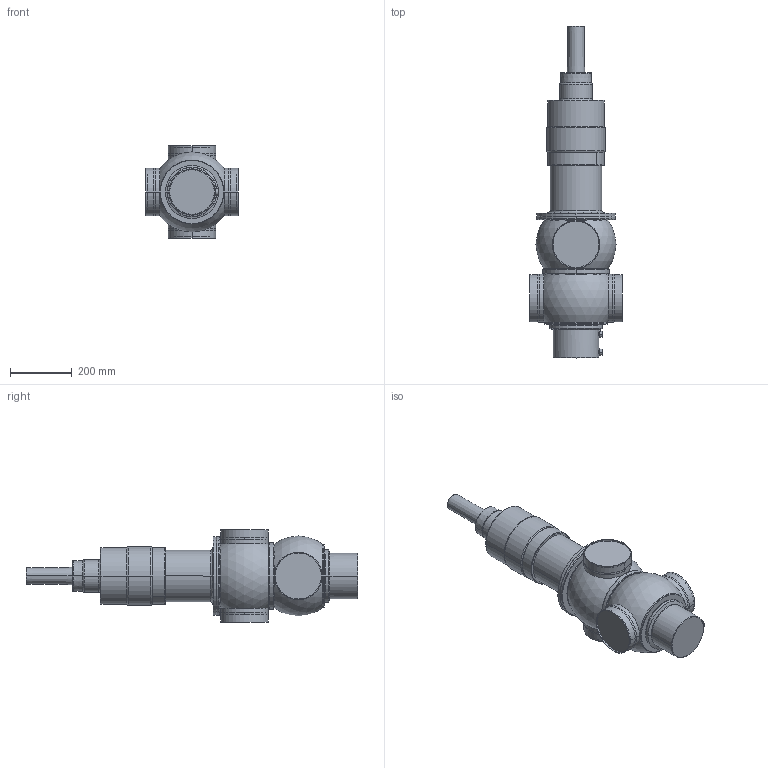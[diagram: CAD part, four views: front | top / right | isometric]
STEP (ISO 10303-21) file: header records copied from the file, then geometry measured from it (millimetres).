
FILE_DESCRIPTION(('Creo Elements/Direct Modeling STEP Export'),'2;1');
FILE_NAME('D44-150_prox.stp','2019-09-03T15:58:17',(''),(''),'PTC Creo Elements/Direct Modeling STEP processor for AP214 (Solid Model)','PTC Creo Elements/Direct Modeling 19.0B 21-Mar-2015 (C) Parametric Technology GmbH','');
FILE_SCHEMA(('AUTOMOTIVE_DESIGN { 1 0 10303 214 1 1 1 1 }'));
Length unit declared in the file: millimetre
Products named in the file (5): housing_D44-150; D4_Prox._holder.; Actuator_D4-D4SL-180_Yoke; drain_pipe_138; D44-150_prox
Assembly tree (4 placements, depth 2):
  D44-150_prox
    drain_pipe_138
    Actuator_D4-D4SL-180_Yoke
    D4_Prox._holder.
    housing_D44-150
Bounding box: 300 x 1078.5 x 300 mm (x, y, z)
Volume: 30973411.8 mm3; surface area: 974666.4 mm2
Topology: 4 solids, 4 shells, 172 faces, 396 edges, 247 vertices
Faces by surface type: cylinder 63, torus 57, plane 29, cone 16, sphere 4, bspline 3
Entity records: 7444 total; most frequent: CARTESIAN_POINT 3788, ORIENTED_EDGE 792, DIRECTION 728, EDGE_CURVE 396, AXIS2_PLACEMENT_3D 324, VERTEX_POINT 247, EDGE_LOOP 187, FACE_OUTER_BOUND 172
